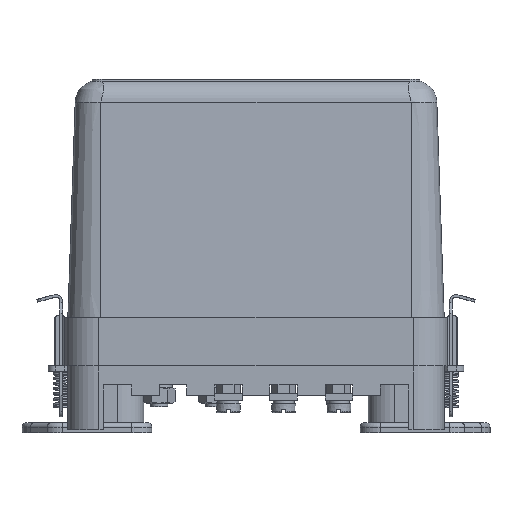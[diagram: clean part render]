
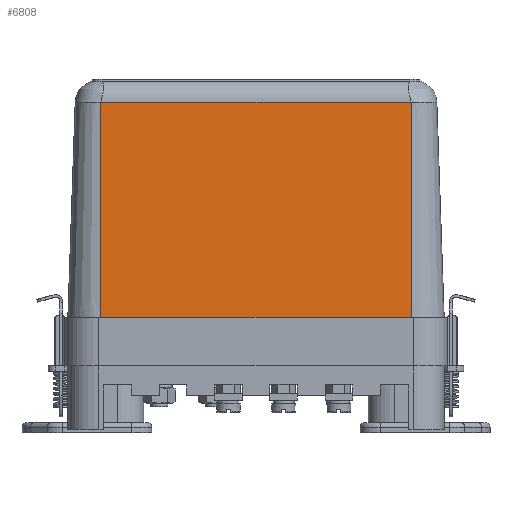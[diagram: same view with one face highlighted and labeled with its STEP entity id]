
A CAD part, left-side view. The second image highlights one B-rep face of the part: STEP entity #6808.
In plain terms, the highlighted planar face has unit normal (-0.999, 0, 0.034).
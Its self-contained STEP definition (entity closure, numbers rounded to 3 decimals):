
#6808=ADVANCED_FACE('',(#17060),#17062,.T.);
#17060=FACE_BOUND('',#17061,.T.);
#17061=EDGE_LOOP('',(#32841,#32842,#32843,#32844,#32845,#32846));
#17062=PLANE('',#17063);
#17063=AXIS2_PLACEMENT_3D('',#17064,#17065,#17066);
#17064=CARTESIAN_POINT('',(-32.5,45.,18.5));
#17065=DIRECTION('',(-0.999,0.,0.034));
#17066=DIRECTION('',(0.,-1.,0.));
#32841=ORIENTED_EDGE('',*,*,#36168,.F.);
#32842=ORIENTED_EDGE('',*,*,#36959,.T.);
#32843=ORIENTED_EDGE('',*,*,#36960,.T.);
#32844=ORIENTED_EDGE('',*,*,#36961,.F.);
#32845=ORIENTED_EDGE('',*,*,#36962,.F.);
#32846=ORIENTED_EDGE('',*,*,#36963,.F.);
#36168=EDGE_CURVE('',#40397,#40399,#40400,.F.);
#36959=EDGE_CURVE('',#40397,#41631,#41633,.T.);
#36960=EDGE_CURVE('',#41631,#41634,#41635,.F.);
#36961=EDGE_CURVE('',#41636,#41634,#41637,.T.);
#36962=EDGE_CURVE('',#41638,#41636,#41639,.F.);
#36963=EDGE_CURVE('',#40399,#41638,#41640,.T.);
#40397=VERTEX_POINT('',#49352);
#40399=VERTEX_POINT('',#49357);
#40400=LINE('',#49358,#49359);
#41631=VERTEX_POINT('',#52694);
#41633=LINE('',#52721,#52722);
#41634=VERTEX_POINT('',#52724);
#41635=LINE('',#52725,#52726);
#41636=VERTEX_POINT('',#52728);
#41637=LINE('',#52729,#52730);
#41638=VERTEX_POINT('',#52732);
#41639=LINE('',#52733,#52734);
#41640=LINE('',#52736,#52737);
#49352=CARTESIAN_POINT('',(-32.023,-45.,32.5));
#49357=CARTESIAN_POINT('',(-32.023,45.,32.5));
#49358=CARTESIAN_POINT('',(-32.023,45.,32.5));
#49359=VECTOR('',#49360,1.);
#49360=DIRECTION('',(0.,-1.,0.));
#52694=CARTESIAN_POINT('',(-29.898,-45.,94.91));
#52721=CARTESIAN_POINT('',(-32.023,-45.,32.5));
#52722=VECTOR('',#52723,1.);
#52723=DIRECTION('',(0.034,0.,0.999));
#52724=CARTESIAN_POINT('',(-29.898,-45.,94.921));
#52725=CARTESIAN_POINT('',(-29.898,-45.,94.921));
#52726=VECTOR('',#52727,1.);
#52727=DIRECTION('',(-0.034,0.,-0.999));
#52728=CARTESIAN_POINT('',(-29.898,45.,94.921));
#52729=CARTESIAN_POINT('',(-29.898,45.,94.921));
#52730=VECTOR('',#52731,1.);
#52731=DIRECTION('',(0.,-1.,0.));
#52732=CARTESIAN_POINT('',(-29.898,45.,94.91));
#52733=CARTESIAN_POINT('',(-29.898,45.,94.921));
#52734=VECTOR('',#52735,1.);
#52735=DIRECTION('',(-0.034,0.,-0.999));
#52736=CARTESIAN_POINT('',(-32.023,45.,32.5));
#52737=VECTOR('',#52738,1.);
#52738=DIRECTION('',(0.034,0.,0.999));
